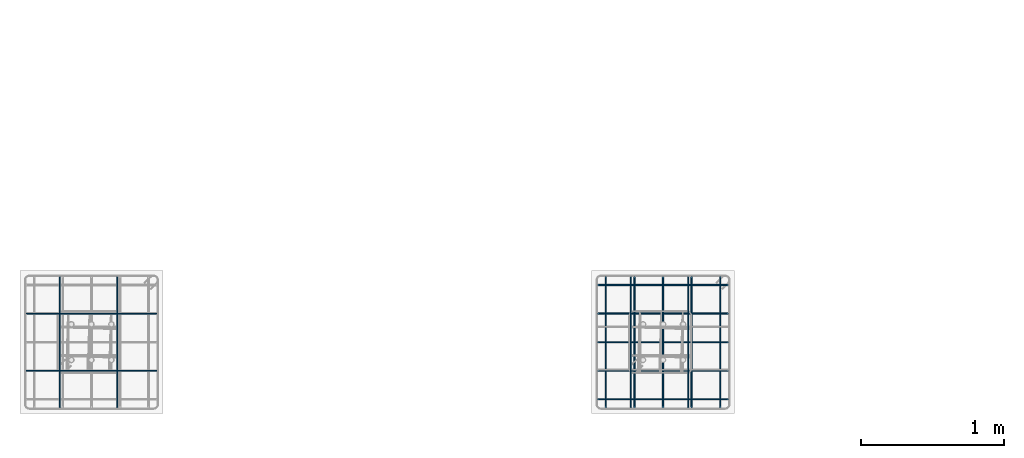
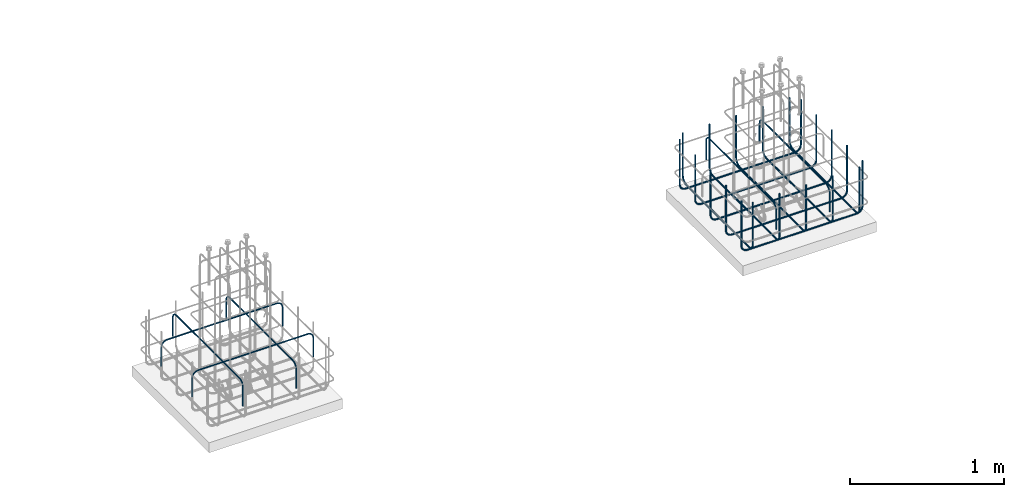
# One storey, part 3 of 12: 5 reinforcing bars.
"""IFC4X3_ADD2 building model written with IfcOpenShell, lengths in millimetres."""

from ifc_helpers import new_model, entity, si_unit, converted_unit, derived_unit, direction, frame, origin, place, context, subcontext, project, spatial, material, type_object, element, save


model = new_model("IFC4X3_ADD2")

# Units and contexts
model_context = context("Model", 3, precision=0.01, world=origin(), true_north=direction((6.123233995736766e-17, 1.0)))
plan_context = context("Plan", 3, precision=0.01, world=origin(), true_north=direction((6.123233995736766e-17, 1.0)))
body_context = subcontext(model_context, "Body", "Model", "MODEL_VIEW")
ifc_project = project(units=[si_unit("LENGTHUNIT", "METRE", prefix="MILLI"), converted_unit("PLANEANGLEUNIT", "DEGREE", entity("IfcPlaneAngleMeasure", 0.017453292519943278), si_unit("PLANEANGLEUNIT", "RADIAN"), dimensions=[0, 0, 0, 0, 0, 0, 0]), si_unit("AREAUNIT", "SQUARE_METRE"), si_unit("VOLUMEUNIT", "CUBIC_METRE"), derived_unit("THERMALTRANSMITTANCEUNIT", [(si_unit("MASSUNIT", "GRAM", prefix="KILO"), 1), (si_unit("THERMODYNAMICTEMPERATUREUNIT", "KELVIN"), -1), (si_unit("TIMEUNIT", "SECOND"), -3)]), derived_unit("USERDEFINED", [(si_unit("MASSUNIT", "GRAM", prefix="KILO"), 1), (si_unit("THERMODYNAMICTEMPERATUREUNIT", "KELVIN"), -1), (si_unit("TIMEUNIT", "SECOND"), -2)]), derived_unit("THERMALRESISTANCEUNIT", [(si_unit("MASSUNIT", "GRAM", prefix="KILO"), -1), (si_unit("TIMEUNIT", "SECOND"), 3), (si_unit("THERMODYNAMICTEMPERATUREUNIT", "KELVIN"), 1)]), si_unit("MASSUNIT", "GRAM", prefix="KILO"), derived_unit("MOMENTOFINERTIAUNIT", [(si_unit("LENGTHUNIT", "METRE"), 4)]), derived_unit("LINEARFORCEUNIT", [(si_unit("MASSUNIT", "GRAM", prefix="KILO"), 1), (si_unit("TIMEUNIT", "SECOND"), -2)]), derived_unit("WARPINGCONSTANTUNIT", [(si_unit("LENGTHUNIT", "METRE"), 6)]), si_unit("PRESSUREUNIT", "PASCAL"), derived_unit("MASSDENSITYUNIT", [(si_unit("MASSUNIT", "GRAM", prefix="KILO"), 1), (si_unit("LENGTHUNIT", "METRE"), -3)]), derived_unit("MODULUSOFELASTICITYUNIT", [(si_unit("MASSUNIT", "GRAM", prefix="KILO"), 1), (si_unit("TIMEUNIT", "SECOND"), -2), (si_unit("LENGTHUNIT", "METRE"), -1)]), derived_unit("THERMALEXPANSIONCOEFFICIENTUNIT", [(si_unit("THERMODYNAMICTEMPERATUREUNIT", "KELVIN"), -1)]), derived_unit("VAPORPERMEABILITYUNIT", [(si_unit("LENGTHUNIT", "METRE"), -1), (si_unit("TIMEUNIT", "SECOND"), 1)]), derived_unit("USERDEFINED", [(si_unit("MASSUNIT", "GRAM", prefix="KILO"), 1), (si_unit("TIMEUNIT", "SECOND"), -3), (si_unit("LENGTHUNIT", "METRE"), 3), (si_unit("ELECTRICCURRENTUNIT", "AMPERE"), -2)]), derived_unit("SPECIFICHEATCAPACITYUNIT", [(si_unit("THERMODYNAMICTEMPERATUREUNIT", "KELVIN"), -1), (si_unit("TIMEUNIT", "SECOND"), -2), (si_unit("LENGTHUNIT", "METRE"), 2)]), derived_unit("THERMALCONDUCTANCEUNIT", [(si_unit("MASSUNIT", "GRAM", prefix="KILO"), 1), (si_unit("THERMODYNAMICTEMPERATUREUNIT", "KELVIN"), -1), (si_unit("TIMEUNIT", "SECOND"), -3), (si_unit("LENGTHUNIT", "METRE"), 1)])], contexts=[model_context, plan_context])

# Site, building, storey
site_placement = place(None, origin())
site = spatial("IfcSite", under=ifc_project, at=site_placement, Name="Default", CompositionType="ELEMENT")
building_placement = place(site_placement, origin())
building = spatial("IfcBuilding", under=site, at=building_placement, Name="Complex structure", CompositionType="ELEMENT")
storey_placement = place(building_placement, frame((0.0, 0.0, -1200.0)))
storey = spatial("IfcBuildingStorey", under=building, at=storey_placement, Name="Level -03", CompositionType="ELEMENT", Elevation=-1200.0)

# Reinforcing bars
ifc_material = material(Name="Steel Rebar - B500A, B or C", Category="Unassigned")
reinforcing_bar_type_1 = type_object("IfcReinforcingBarType", Name="Rebar Bar:12mm", PredefinedType="NOTDEFINED")
reinforcing_bar_1_placement = place(storey_placement, origin())
ifc_direction_1 = entity("IfcDirection", [-1.0, 0.0, 0.0])
ifc_direction_2 = entity("IfcDirection", [-1.0, 0.0, 0.0])
ifc_direction_3 = entity("IfcDirection", [-1.0, 0.0, 0.0])
ifc_direction_4 = entity("IfcDirection", [-1.0, 0.0, 0.0])
ifc_direction_5 = entity("IfcDirection", [-1.0, 0.0, 0.0])
element("IfcReinforcingBar", 1, at=reinforcing_bar_1_placement, inside=storey, type_object=reinforcing_bar_type_1, material=ifc_material, Name="Rebar Bar:12mm : Shape 21", ObjectType="Rebar Bar:12mm", context=body_context, shape_type="AdvancedSweptSolid", body=[
    entity("IfcSweptDiskSolid", entity("IfcCompositeCurve", [entity("IfcCompositeCurveSegment", "CONTINUOUS", True, entity("IfcPolyline", [entity("IfcCartesianPoint", [-8745.221550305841, -828.8667039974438, 440.0]), entity("IfcCartesianPoint", [-8745.221550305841, -828.8667039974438, 104.0])])), entity("IfcCompositeCurveSegment", "CONTINUOUS", True, entity("IfcTrimmedCurve", entity("IfcCircle", entity("IfcAxis2Placement3D", entity("IfcCartesianPoint", [-8745.221550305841, -874.8667039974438, 104.0]), ifc_direction_1, entity("IfcDirection", [0.0, 0.0, -1.0])), 46.0), [entity("IfcParameterValue", 269.9999999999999)], [entity("IfcParameterValue", 360.00000000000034)], True, "PARAMETER")), entity("IfcCompositeCurveSegment", "CONTINUOUS", True, entity("IfcPolyline", [entity("IfcCartesianPoint", [-8745.221550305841, -874.8667039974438, 58.0]), entity("IfcCartesianPoint", [-8745.221550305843, -1690.866703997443, 58.0])])), entity("IfcCompositeCurveSegment", "CONTINUOUS", True, entity("IfcTrimmedCurve", entity("IfcCircle", entity("IfcAxis2Placement3D", entity("IfcCartesianPoint", [-8745.221550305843, -1690.866703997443, 104.0]), ifc_direction_1, entity("IfcDirection", [0.0, -1.0, 0.0])), 46.0), [entity("IfcParameterValue", 269.9999999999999)], [entity("IfcParameterValue", 360.00000000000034)], True, "PARAMETER")), entity("IfcCompositeCurveSegment", "CONTINUOUS", True, entity("IfcPolyline", [entity("IfcCartesianPoint", [-8745.221550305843, -1736.866703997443, 104.0]), entity("IfcCartesianPoint", [-8745.221550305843, -1736.866703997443, 440.0])]))], False), 6.0, None, 0.0, 183.00000000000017),
    entity("IfcSweptDiskSolid", entity("IfcCompositeCurve", [entity("IfcCompositeCurveSegment", "CONTINUOUS", True, entity("IfcPolyline", [entity("IfcCartesianPoint", [-8945.221550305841, -828.8667039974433, 440.0]), entity("IfcCartesianPoint", [-8945.221550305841, -828.8667039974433, 104.0])])), entity("IfcCompositeCurveSegment", "CONTINUOUS", True, entity("IfcTrimmedCurve", entity("IfcCircle", entity("IfcAxis2Placement3D", entity("IfcCartesianPoint", [-8945.221550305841, -874.8667039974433, 104.0]), ifc_direction_2, entity("IfcDirection", [0.0, 0.0, -1.0])), 46.0), [entity("IfcParameterValue", 269.9999999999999)], [entity("IfcParameterValue", 360.00000000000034)], True, "PARAMETER")), entity("IfcCompositeCurveSegment", "CONTINUOUS", True, entity("IfcPolyline", [entity("IfcCartesianPoint", [-8945.221550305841, -874.8667039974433, 58.0]), entity("IfcCartesianPoint", [-8945.221550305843, -1690.8667039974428, 58.0])])), entity("IfcCompositeCurveSegment", "CONTINUOUS", True, entity("IfcTrimmedCurve", entity("IfcCircle", entity("IfcAxis2Placement3D", entity("IfcCartesianPoint", [-8945.221550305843, -1690.8667039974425, 104.0]), ifc_direction_2, entity("IfcDirection", [0.0, -1.0, 0.0])), 46.0), [entity("IfcParameterValue", 269.9999999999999)], [entity("IfcParameterValue", 360.00000000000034)], True, "PARAMETER")), entity("IfcCompositeCurveSegment", "CONTINUOUS", True, entity("IfcPolyline", [entity("IfcCartesianPoint", [-8945.221550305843, -1736.8667039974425, 104.0]), entity("IfcCartesianPoint", [-8945.221550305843, -1736.8667039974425, 440.0])]))], False), 6.0, None, 0.0, 183.00000000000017),
    entity("IfcSweptDiskSolid", entity("IfcCompositeCurve", [entity("IfcCompositeCurveSegment", "CONTINUOUS", True, entity("IfcPolyline", [entity("IfcCartesianPoint", [-9145.221550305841, -828.8667039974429, 440.0]), entity("IfcCartesianPoint", [-9145.221550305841, -828.8667039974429, 104.0])])), entity("IfcCompositeCurveSegment", "CONTINUOUS", True, entity("IfcTrimmedCurve", entity("IfcCircle", entity("IfcAxis2Placement3D", entity("IfcCartesianPoint", [-9145.221550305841, -874.8667039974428, 104.0]), ifc_direction_3, entity("IfcDirection", [0.0, 0.0, -1.0])), 46.0), [entity("IfcParameterValue", 269.9999999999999)], [entity("IfcParameterValue", 360.00000000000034)], True, "PARAMETER")), entity("IfcCompositeCurveSegment", "CONTINUOUS", True, entity("IfcPolyline", [entity("IfcCartesianPoint", [-9145.221550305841, -874.8667039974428, 58.0]), entity("IfcCartesianPoint", [-9145.221550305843, -1690.866703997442, 58.0])])), entity("IfcCompositeCurveSegment", "CONTINUOUS", True, entity("IfcTrimmedCurve", entity("IfcCircle", entity("IfcAxis2Placement3D", entity("IfcCartesianPoint", [-9145.221550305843, -1690.866703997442, 104.0]), ifc_direction_3, entity("IfcDirection", [0.0, -1.0, 0.0])), 46.0), [entity("IfcParameterValue", 269.9999999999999)], [entity("IfcParameterValue", 360.00000000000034)], True, "PARAMETER")), entity("IfcCompositeCurveSegment", "CONTINUOUS", True, entity("IfcPolyline", [entity("IfcCartesianPoint", [-9145.221550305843, -1736.8667039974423, 104.0]), entity("IfcCartesianPoint", [-9145.221550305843, -1736.8667039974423, 440.0])]))], False), 6.0, None, 0.0, 183.00000000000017),
    entity("IfcSweptDiskSolid", entity("IfcCompositeCurve", [entity("IfcCompositeCurveSegment", "CONTINUOUS", True, entity("IfcPolyline", [entity("IfcCartesianPoint", [-9345.221550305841, -828.8667039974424, 440.0]), entity("IfcCartesianPoint", [-9345.221550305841, -828.8667039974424, 104.0])])), entity("IfcCompositeCurveSegment", "CONTINUOUS", True, entity("IfcTrimmedCurve", entity("IfcCircle", entity("IfcAxis2Placement3D", entity("IfcCartesianPoint", [-9345.221550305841, -874.8667039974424, 104.0]), ifc_direction_4, entity("IfcDirection", [0.0, 0.0, -1.0])), 46.0), [entity("IfcParameterValue", 269.9999999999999)], [entity("IfcParameterValue", 360.00000000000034)], True, "PARAMETER")), entity("IfcCompositeCurveSegment", "CONTINUOUS", True, entity("IfcPolyline", [entity("IfcCartesianPoint", [-9345.221550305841, -874.8667039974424, 58.0]), entity("IfcCartesianPoint", [-9345.221550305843, -1690.8667039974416, 58.0])])), entity("IfcCompositeCurveSegment", "CONTINUOUS", True, entity("IfcTrimmedCurve", entity("IfcCircle", entity("IfcAxis2Placement3D", entity("IfcCartesianPoint", [-9345.221550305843, -1690.8667039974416, 104.0]), ifc_direction_4, entity("IfcDirection", [0.0, -1.0, 0.0])), 46.0), [entity("IfcParameterValue", 269.9999999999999)], [entity("IfcParameterValue", 360.00000000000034)], True, "PARAMETER")), entity("IfcCompositeCurveSegment", "CONTINUOUS", True, entity("IfcPolyline", [entity("IfcCartesianPoint", [-9345.221550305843, -1736.8667039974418, 104.0]), entity("IfcCartesianPoint", [-9345.221550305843, -1736.8667039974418, 440.0])]))], False), 6.0, None, 0.0, 183.00000000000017),
    entity("IfcSweptDiskSolid", entity("IfcCompositeCurve", [entity("IfcCompositeCurveSegment", "CONTINUOUS", True, entity("IfcPolyline", [entity("IfcCartesianPoint", [-9545.221550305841, -828.8667039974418, 440.0]), entity("IfcCartesianPoint", [-9545.221550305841, -828.8667039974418, 104.0])])), entity("IfcCompositeCurveSegment", "CONTINUOUS", True, entity("IfcTrimmedCurve", entity("IfcCircle", entity("IfcAxis2Placement3D", entity("IfcCartesianPoint", [-9545.221550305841, -874.8667039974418, 104.0]), ifc_direction_5, entity("IfcDirection", [0.0, 0.0, -1.0])), 46.0), [entity("IfcParameterValue", 269.9999999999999)], [entity("IfcParameterValue", 360.00000000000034)], True, "PARAMETER")), entity("IfcCompositeCurveSegment", "CONTINUOUS", True, entity("IfcPolyline", [entity("IfcCartesianPoint", [-9545.221550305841, -874.8667039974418, 58.0]), entity("IfcCartesianPoint", [-9545.221550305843, -1690.8667039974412, 58.0])])), entity("IfcCompositeCurveSegment", "CONTINUOUS", True, entity("IfcTrimmedCurve", entity("IfcCircle", entity("IfcAxis2Placement3D", entity("IfcCartesianPoint", [-9545.221550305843, -1690.8667039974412, 104.0]), ifc_direction_5, entity("IfcDirection", [0.0, -1.0, 0.0])), 46.0), [entity("IfcParameterValue", 269.9999999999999)], [entity("IfcParameterValue", 360.00000000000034)], True, "PARAMETER")), entity("IfcCompositeCurveSegment", "CONTINUOUS", True, entity("IfcPolyline", [entity("IfcCartesianPoint", [-9545.221550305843, -1736.8667039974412, 104.0]), entity("IfcCartesianPoint", [-9545.221550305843, -1736.8667039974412, 440.0])]))], False), 6.0, None, 0.0, 183.00000000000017),
])
reinforcing_bar_2_placement = place(storey_placement, origin())
ifc_direction_6 = entity("IfcDirection", [0.0, -1.0, 0.0])
ifc_direction_7 = entity("IfcDirection", [0.0, -1.0, 0.0])
ifc_direction_8 = entity("IfcDirection", [0.0, -1.0, 0.0])
ifc_direction_9 = entity("IfcDirection", [0.0, -1.0, 0.0])
ifc_direction_10 = entity("IfcDirection", [0.0, -1.0, 0.0])
element("IfcReinforcingBar", 2, at=reinforcing_bar_2_placement, inside=storey, type_object=reinforcing_bar_type_1, material=ifc_material, Name="Rebar Bar:12mm : Shape 21", ObjectType="Rebar Bar:12mm", context=body_context, shape_type="AdvancedSweptSolid", body=[
    entity("IfcSweptDiskSolid", entity("IfcCompositeCurve", [entity("IfcCompositeCurveSegment", "CONTINUOUS", True, entity("IfcPolyline", [entity("IfcCartesianPoint", [-9598.871550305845, -882.8667039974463, 440.0]), entity("IfcCartesianPoint", [-9598.871550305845, -882.8667039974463, 82.0])])), entity("IfcCompositeCurveSegment", "CONTINUOUS", True, entity("IfcTrimmedCurve", entity("IfcCircle", entity("IfcAxis2Placement3D", entity("IfcCartesianPoint", [-9552.871550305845, -882.8667039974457, 82.0]), ifc_direction_6, entity("IfcDirection", [0.0, 0.0, -1.0])), 46.0), [entity("IfcParameterValue", 269.9999999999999)], [entity("IfcParameterValue", 360.00000000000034)], True, "PARAMETER")), entity("IfcCompositeCurveSegment", "CONTINUOUS", True, entity("IfcPolyline", [entity("IfcCartesianPoint", [-9552.871550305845, -882.8667039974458, 36.0]), entity("IfcCartesianPoint", [-8737.571550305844, -882.8667039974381, 36.0])])), entity("IfcCompositeCurveSegment", "CONTINUOUS", True, entity("IfcTrimmedCurve", entity("IfcCircle", entity("IfcAxis2Placement3D", entity("IfcCartesianPoint", [-8737.571550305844, -882.8667039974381, 82.0]), ifc_direction_6, entity("IfcDirection", [1.0, 0.0, 0.0])), 46.0), [entity("IfcParameterValue", 269.9999999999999)], [entity("IfcParameterValue", 360.00000000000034)], True, "PARAMETER")), entity("IfcCompositeCurveSegment", "CONTINUOUS", True, entity("IfcPolyline", [entity("IfcCartesianPoint", [-8691.571550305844, -882.8667039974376, 82.0]), entity("IfcCartesianPoint", [-8691.571550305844, -882.8667039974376, 440.0])]))], False), 6.0, None, 0.0, 183.00000000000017),
    entity("IfcSweptDiskSolid", entity("IfcCompositeCurve", [entity("IfcCompositeCurveSegment", "CONTINUOUS", True, entity("IfcPolyline", [entity("IfcCartesianPoint", [-9598.871550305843, -1082.8667039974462, 440.0]), entity("IfcCartesianPoint", [-9598.871550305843, -1082.8667039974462, 82.0])])), entity("IfcCompositeCurveSegment", "CONTINUOUS", True, entity("IfcTrimmedCurve", entity("IfcCircle", entity("IfcAxis2Placement3D", entity("IfcCartesianPoint", [-9552.871550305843, -1082.8667039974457, 82.0]), ifc_direction_7, entity("IfcDirection", [0.0, 0.0, -1.0])), 46.0), [entity("IfcParameterValue", 269.9999999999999)], [entity("IfcParameterValue", 360.00000000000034)], True, "PARAMETER")), entity("IfcCompositeCurveSegment", "CONTINUOUS", True, entity("IfcPolyline", [entity("IfcCartesianPoint", [-9552.871550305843, -1082.866703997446, 36.0]), entity("IfcCartesianPoint", [-8737.571550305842, -1082.8667039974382, 36.0])])), entity("IfcCompositeCurveSegment", "CONTINUOUS", True, entity("IfcTrimmedCurve", entity("IfcCircle", entity("IfcAxis2Placement3D", entity("IfcCartesianPoint", [-8737.571550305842, -1082.8667039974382, 82.0]), ifc_direction_7, entity("IfcDirection", [1.0, 0.0, 0.0])), 46.0), [entity("IfcParameterValue", 269.9999999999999)], [entity("IfcParameterValue", 360.00000000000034)], True, "PARAMETER")), entity("IfcCompositeCurveSegment", "CONTINUOUS", True, entity("IfcPolyline", [entity("IfcCartesianPoint", [-8691.571550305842, -1082.8667039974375, 82.0]), entity("IfcCartesianPoint", [-8691.571550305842, -1082.8667039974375, 440.0])]))], False), 6.0, None, 0.0, 183.00000000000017),
    entity("IfcSweptDiskSolid", entity("IfcCompositeCurve", [entity("IfcCompositeCurveSegment", "CONTINUOUS", True, entity("IfcPolyline", [entity("IfcCartesianPoint", [-9598.871550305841, -1282.8667039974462, 440.0]), entity("IfcCartesianPoint", [-9598.871550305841, -1282.8667039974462, 82.0])])), entity("IfcCompositeCurveSegment", "CONTINUOUS", True, entity("IfcTrimmedCurve", entity("IfcCircle", entity("IfcAxis2Placement3D", entity("IfcCartesianPoint", [-9552.871550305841, -1282.8667039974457, 82.0]), ifc_direction_8, entity("IfcDirection", [0.0, 0.0, -1.0])), 46.0), [entity("IfcParameterValue", 269.9999999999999)], [entity("IfcParameterValue", 360.00000000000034)], True, "PARAMETER")), entity("IfcCompositeCurveSegment", "CONTINUOUS", True, entity("IfcPolyline", [entity("IfcCartesianPoint", [-9552.871550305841, -1282.8667039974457, 36.0]), entity("IfcCartesianPoint", [-8737.57155030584, -1282.866703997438, 36.0])])), entity("IfcCompositeCurveSegment", "CONTINUOUS", True, entity("IfcTrimmedCurve", entity("IfcCircle", entity("IfcAxis2Placement3D", entity("IfcCartesianPoint", [-8737.57155030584, -1282.866703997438, 82.0]), ifc_direction_8, entity("IfcDirection", [1.0, 0.0, 0.0])), 46.0), [entity("IfcParameterValue", 269.9999999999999)], [entity("IfcParameterValue", 360.00000000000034)], True, "PARAMETER")), entity("IfcCompositeCurveSegment", "CONTINUOUS", True, entity("IfcPolyline", [entity("IfcCartesianPoint", [-8691.57155030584, -1282.8667039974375, 82.0]), entity("IfcCartesianPoint", [-8691.57155030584, -1282.8667039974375, 440.0])]))], False), 6.0, None, 0.0, 183.00000000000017),
    entity("IfcSweptDiskSolid", entity("IfcCompositeCurve", [entity("IfcCompositeCurveSegment", "CONTINUOUS", True, entity("IfcPolyline", [entity("IfcCartesianPoint", [-9598.87155030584, -1482.8667039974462, 440.0]), entity("IfcCartesianPoint", [-9598.87155030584, -1482.8667039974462, 82.0])])), entity("IfcCompositeCurveSegment", "CONTINUOUS", True, entity("IfcTrimmedCurve", entity("IfcCircle", entity("IfcAxis2Placement3D", entity("IfcCartesianPoint", [-9552.87155030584, -1482.8667039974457, 82.0]), ifc_direction_9, entity("IfcDirection", [0.0, 0.0, -1.0])), 46.0), [entity("IfcParameterValue", 269.9999999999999)], [entity("IfcParameterValue", 360.00000000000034)], True, "PARAMETER")), entity("IfcCompositeCurveSegment", "CONTINUOUS", True, entity("IfcPolyline", [entity("IfcCartesianPoint", [-9552.87155030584, -1482.8667039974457, 36.0]), entity("IfcCartesianPoint", [-8737.571550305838, -1482.866703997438, 36.0])])), entity("IfcCompositeCurveSegment", "CONTINUOUS", True, entity("IfcTrimmedCurve", entity("IfcCircle", entity("IfcAxis2Placement3D", entity("IfcCartesianPoint", [-8737.571550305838, -1482.866703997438, 82.0]), ifc_direction_9, entity("IfcDirection", [1.0, 0.0, 0.0])), 46.0), [entity("IfcParameterValue", 269.9999999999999)], [entity("IfcParameterValue", 360.00000000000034)], True, "PARAMETER")), entity("IfcCompositeCurveSegment", "CONTINUOUS", True, entity("IfcPolyline", [entity("IfcCartesianPoint", [-8691.571550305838, -1482.8667039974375, 82.0]), entity("IfcCartesianPoint", [-8691.571550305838, -1482.8667039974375, 440.0])]))], False), 6.0, None, 0.0, 183.00000000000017),
    entity("IfcSweptDiskSolid", entity("IfcCompositeCurve", [entity("IfcCompositeCurveSegment", "CONTINUOUS", True, entity("IfcPolyline", [entity("IfcCartesianPoint", [-9598.871550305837, -1682.8667039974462, 440.0]), entity("IfcCartesianPoint", [-9598.871550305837, -1682.8667039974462, 82.0])])), entity("IfcCompositeCurveSegment", "CONTINUOUS", True, entity("IfcTrimmedCurve", entity("IfcCircle", entity("IfcAxis2Placement3D", entity("IfcCartesianPoint", [-9552.871550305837, -1682.8667039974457, 82.0]), ifc_direction_10, entity("IfcDirection", [0.0, 0.0, -1.0])), 46.0), [entity("IfcParameterValue", 269.9999999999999)], [entity("IfcParameterValue", 360.00000000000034)], True, "PARAMETER")), entity("IfcCompositeCurveSegment", "CONTINUOUS", True, entity("IfcPolyline", [entity("IfcCartesianPoint", [-9552.871550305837, -1682.8667039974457, 36.0]), entity("IfcCartesianPoint", [-8737.571550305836, -1682.866703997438, 36.0])])), entity("IfcCompositeCurveSegment", "CONTINUOUS", True, entity("IfcTrimmedCurve", entity("IfcCircle", entity("IfcAxis2Placement3D", entity("IfcCartesianPoint", [-8737.571550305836, -1682.866703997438, 82.0]), ifc_direction_10, entity("IfcDirection", [1.0, 0.0, 0.0])), 46.0), [entity("IfcParameterValue", 269.9999999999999)], [entity("IfcParameterValue", 360.00000000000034)], True, "PARAMETER")), entity("IfcCompositeCurveSegment", "CONTINUOUS", True, entity("IfcPolyline", [entity("IfcCartesianPoint", [-8691.571550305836, -1682.8667039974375, 82.0]), entity("IfcCartesianPoint", [-8691.571550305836, -1682.8667039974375, 440.0])]))], False), 6.0, None, 0.0, 183.00000000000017),
])
reinforcing_bar_type_2 = type_object("IfcReinforcingBarType", Name="Rebar Bar:10mm", PredefinedType="NOTDEFINED")
reinforcing_bar_3_placement = place(storey_placement, origin())
ifc_direction_11 = entity("IfcDirection", [1.0, 0.0, 0.0])
ifc_direction_12 = entity("IfcDirection", [1.0, 0.0, 0.0])
element("IfcReinforcingBar", 3, at=reinforcing_bar_3_placement, inside=storey, type_object=reinforcing_bar_type_2, material=ifc_material, Name="Rebar Bar:10mm : Shape 21", ObjectType="Rebar Bar:10mm", context=body_context, shape_type="AdvancedSweptSolid", body=[
    entity("IfcSweptDiskSolid", entity("IfcCompositeCurve", [entity("IfcCompositeCurveSegment", "CONTINUOUS", True, entity("IfcPolyline", [entity("IfcCartesianPoint", [-12965.87155030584, -827.8667039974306, 167.0]), entity("IfcCartesianPoint", [-12965.87155030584, -827.8667039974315, 315.0])])), entity("IfcCompositeCurveSegment", "CONTINUOUS", True, entity("IfcTrimmedCurve", entity("IfcCircle", entity("IfcAxis2Placement3D", entity("IfcCartesianPoint", [-12965.87155030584, -872.8667039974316, 315.0]), ifc_direction_11, entity("IfcDirection", [0.0, 0.0, 1.0])), 45.0), [entity("IfcParameterValue", 269.9999999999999)], [entity("IfcParameterValue", 360.00000000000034)], True, "PARAMETER")), entity("IfcCompositeCurveSegment", "CONTINUOUS", True, entity("IfcPolyline", [entity("IfcCartesianPoint", [-12965.87155030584, -872.8667039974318, 360.0]), entity("IfcCartesianPoint", [-12965.871550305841, -1692.8667039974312, 360.0])])), entity("IfcCompositeCurveSegment", "CONTINUOUS", True, entity("IfcTrimmedCurve", entity("IfcCircle", entity("IfcAxis2Placement3D", entity("IfcCartesianPoint", [-12965.871550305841, -1692.866703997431, 315.0]), ifc_direction_11, entity("IfcDirection", [0.0, -1.0, 0.0])), 45.0), [entity("IfcParameterValue", 269.9999999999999)], [entity("IfcParameterValue", 360.00000000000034)], True, "PARAMETER")), entity("IfcCompositeCurveSegment", "CONTINUOUS", True, entity("IfcPolyline", [entity("IfcCartesianPoint", [-12965.871550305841, -1737.866703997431, 315.0]), entity("IfcCartesianPoint", [-12965.871550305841, -1737.8667039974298, 167.0])]))], False), 5.0, None, 0.0, 183.00000000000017),
    entity("IfcSweptDiskSolid", entity("IfcCompositeCurve", [entity("IfcCompositeCurveSegment", "CONTINUOUS", True, entity("IfcPolyline", [entity("IfcCartesianPoint", [-13365.87155030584, -827.8667039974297, 167.0]), entity("IfcCartesianPoint", [-13365.87155030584, -827.8667039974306, 315.0])])), entity("IfcCompositeCurveSegment", "CONTINUOUS", True, entity("IfcTrimmedCurve", entity("IfcCircle", entity("IfcAxis2Placement3D", entity("IfcCartesianPoint", [-13365.87155030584, -872.8667039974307, 315.0]), ifc_direction_12, entity("IfcDirection", [0.0, 0.0, 1.0])), 45.0), [entity("IfcParameterValue", 269.9999999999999)], [entity("IfcParameterValue", 360.00000000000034)], True, "PARAMETER")), entity("IfcCompositeCurveSegment", "CONTINUOUS", True, entity("IfcPolyline", [entity("IfcCartesianPoint", [-13365.87155030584, -872.8667039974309, 360.0]), entity("IfcCartesianPoint", [-13365.871550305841, -1692.8667039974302, 360.0])])), entity("IfcCompositeCurveSegment", "CONTINUOUS", True, entity("IfcTrimmedCurve", entity("IfcCircle", entity("IfcAxis2Placement3D", entity("IfcCartesianPoint", [-13365.871550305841, -1692.86670399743, 315.0]), ifc_direction_12, entity("IfcDirection", [0.0, -1.0, 0.0])), 45.0), [entity("IfcParameterValue", 269.9999999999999)], [entity("IfcParameterValue", 360.00000000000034)], True, "PARAMETER")), entity("IfcCompositeCurveSegment", "CONTINUOUS", True, entity("IfcPolyline", [entity("IfcCartesianPoint", [-13365.871550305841, -1737.8667039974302, 315.0]), entity("IfcCartesianPoint", [-13365.871550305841, -1737.866703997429, 167.0])]))], False), 5.0, None, 0.0, 183.00000000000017),
])
reinforcing_bar_4_placement = place(storey_placement, origin())
element("IfcReinforcingBar", 4, at=reinforcing_bar_4_placement, inside=storey, type_object=reinforcing_bar_type_2, material=ifc_material, Name="Rebar Bar:10mm : Shape 21", ObjectType="Rebar Bar:10mm", context=body_context, shape_type="AdvancedSweptSolid", body=[
    entity("IfcSweptDiskSolid", entity("IfcCompositeCurve", [entity("IfcCompositeCurveSegment", "CONTINUOUS", True, entity("IfcPolyline", [entity("IfcCartesianPoint", [-12691.352329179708, -1483.108904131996, 167.0]), entity("IfcCartesianPoint", [-12691.352329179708, -1483.108904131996, 316.0])])), entity("IfcCompositeCurveSegment", "CONTINUOUS", True, entity("IfcTrimmedCurve", entity("IfcCircle", entity("IfcAxis2Placement3D", entity("IfcCartesianPoint", [-12736.352322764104, -1483.084874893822, 316.0]), entity("IfcDirection", [-0.0005339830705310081, -0.99999985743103, 0.0]), entity("IfcDirection", [0.0, 0.0, 1.0])), 45.0), [entity("IfcParameterValue", 269.9999999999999)], [entity("IfcParameterValue", 360.00000000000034)], True, "PARAMETER")), entity("IfcCompositeCurveSegment", "CONTINUOUS", True, entity("IfcPolyline", [entity("IfcCartesianPoint", [-12736.352322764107, -1483.0848748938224, 361.0]), entity("IfcCartesianPoint", [-13554.351947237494, -1482.6480768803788, 361.0])])), entity("IfcCompositeCurveSegment", "CONTINUOUS", True, entity("IfcTrimmedCurve", entity("IfcCircle", entity("IfcAxis2Placement3D", entity("IfcCartesianPoint", [-13554.351947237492, -1482.6480768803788, 316.0]), entity("IfcDirection", [-0.0005339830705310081, -0.99999985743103, 0.0]), entity("IfcDirection", [-0.99999985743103, 0.0005339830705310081, 0.0])), 45.0), [entity("IfcParameterValue", 269.9999999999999)], [entity("IfcParameterValue", 360.00000000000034)], True, "PARAMETER")), entity("IfcCompositeCurveSegment", "CONTINUOUS", True, entity("IfcPolyline", [entity("IfcCartesianPoint", [-13599.35194082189, -1482.6240476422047, 316.0]), entity("IfcCartesianPoint", [-13599.351940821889, -1482.6240476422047, 167.0])]))], False), 5.0, None, 0.0, 183.00000000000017),
    entity("IfcSweptDiskSolid", entity("IfcCompositeCurve", [entity("IfcCompositeCurveSegment", "CONTINUOUS", True, entity("IfcPolyline", [entity("IfcCartesianPoint", [-12691.138735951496, -1083.108961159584, 167.0]), entity("IfcCartesianPoint", [-12691.138735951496, -1083.108961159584, 316.0])])), entity("IfcCompositeCurveSegment", "CONTINUOUS", True, entity("IfcTrimmedCurve", entity("IfcCircle", entity("IfcAxis2Placement3D", entity("IfcCartesianPoint", [-12736.13872953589, -1083.0849319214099, 316.0]), entity("IfcDirection", [-0.0005339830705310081, -0.99999985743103, 0.0]), entity("IfcDirection", [0.0, 0.0, 1.0])), 45.0), [entity("IfcParameterValue", 269.9999999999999)], [entity("IfcParameterValue", 360.00000000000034)], True, "PARAMETER")), entity("IfcCompositeCurveSegment", "CONTINUOUS", True, entity("IfcPolyline", [entity("IfcCartesianPoint", [-12736.138729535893, -1083.08493192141, 361.0]), entity("IfcCartesianPoint", [-13554.138354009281, -1082.6481339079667, 361.0])])), entity("IfcCompositeCurveSegment", "CONTINUOUS", True, entity("IfcTrimmedCurve", entity("IfcCircle", entity("IfcAxis2Placement3D", entity("IfcCartesianPoint", [-13554.13835400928, -1082.6481339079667, 316.0]), entity("IfcDirection", [-0.0005339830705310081, -0.99999985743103, 0.0]), entity("IfcDirection", [-0.99999985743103, 0.0005339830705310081, 0.0])), 45.0), [entity("IfcParameterValue", 269.9999999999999)], [entity("IfcParameterValue", 360.00000000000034)], True, "PARAMETER")), entity("IfcCompositeCurveSegment", "CONTINUOUS", True, entity("IfcPolyline", [entity("IfcCartesianPoint", [-13599.138347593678, -1082.6241046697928, 316.0]), entity("IfcCartesianPoint", [-13599.138347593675, -1082.6241046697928, 167.0])]))], False), 5.0, None, 0.0, 183.00000000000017),
])
reinforcing_bar_5_placement = place(storey_placement, origin())
ifc_direction_13 = entity("IfcDirection", [1.0, 0.0, 0.0])
ifc_direction_14 = entity("IfcDirection", [1.0, 0.0, 0.0])
element("IfcReinforcingBar", 5, at=reinforcing_bar_5_placement, inside=storey, type_object=reinforcing_bar_type_2, material=ifc_material, Name="Rebar Bar:10mm : Shape 21", ObjectType="Rebar Bar:10mm", context=body_context, shape_type="AdvancedSweptSolid", body=[
    entity("IfcSweptDiskSolid", entity("IfcCompositeCurve", [entity("IfcCompositeCurveSegment", "CONTINUOUS", True, entity("IfcPolyline", [entity("IfcCartesianPoint", [-8969.871550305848, -827.8667039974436, 167.0]), entity("IfcCartesianPoint", [-8969.871550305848, -827.8667039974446, 315.0])])), entity("IfcCompositeCurveSegment", "CONTINUOUS", True, entity("IfcTrimmedCurve", entity("IfcCircle", entity("IfcAxis2Placement3D", entity("IfcCartesianPoint", [-8969.871550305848, -872.8667039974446, 315.0]), ifc_direction_13, entity("IfcDirection", [0.0, 0.0, 1.0])), 45.0), [entity("IfcParameterValue", 269.9999999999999)], [entity("IfcParameterValue", 360.00000000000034)], True, "PARAMETER")), entity("IfcCompositeCurveSegment", "CONTINUOUS", True, entity("IfcPolyline", [entity("IfcCartesianPoint", [-8969.871550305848, -872.8667039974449, 360.0]), entity("IfcCartesianPoint", [-8969.87155030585, -1692.8667039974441, 360.0])])), entity("IfcCompositeCurveSegment", "CONTINUOUS", True, entity("IfcTrimmedCurve", entity("IfcCircle", entity("IfcAxis2Placement3D", entity("IfcCartesianPoint", [-8969.87155030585, -1692.866703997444, 315.0]), ifc_direction_13, entity("IfcDirection", [0.0, -1.0, 0.0])), 45.0), [entity("IfcParameterValue", 269.9999999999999)], [entity("IfcParameterValue", 360.00000000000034)], True, "PARAMETER")), entity("IfcCompositeCurveSegment", "CONTINUOUS", True, entity("IfcPolyline", [entity("IfcCartesianPoint", [-8969.87155030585, -1737.866703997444, 315.0]), entity("IfcCartesianPoint", [-8969.87155030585, -1737.8667039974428, 167.0])]))], False), 5.0, None, 0.0, 183.00000000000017),
    entity("IfcSweptDiskSolid", entity("IfcCompositeCurve", [entity("IfcCompositeCurveSegment", "CONTINUOUS", True, entity("IfcPolyline", [entity("IfcCartesianPoint", [-9369.871550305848, -827.8667039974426, 167.0]), entity("IfcCartesianPoint", [-9369.871550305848, -827.8667039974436, 315.0])])), entity("IfcCompositeCurveSegment", "CONTINUOUS", True, entity("IfcTrimmedCurve", entity("IfcCircle", entity("IfcAxis2Placement3D", entity("IfcCartesianPoint", [-9369.871550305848, -872.8667039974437, 315.0]), ifc_direction_14, entity("IfcDirection", [0.0, 0.0, 1.0])), 45.0), [entity("IfcParameterValue", 269.9999999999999)], [entity("IfcParameterValue", 360.00000000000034)], True, "PARAMETER")), entity("IfcCompositeCurveSegment", "CONTINUOUS", True, entity("IfcPolyline", [entity("IfcCartesianPoint", [-9369.871550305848, -872.8667039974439, 360.0]), entity("IfcCartesianPoint", [-9369.87155030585, -1692.8667039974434, 360.0])])), entity("IfcCompositeCurveSegment", "CONTINUOUS", True, entity("IfcTrimmedCurve", entity("IfcCircle", entity("IfcAxis2Placement3D", entity("IfcCartesianPoint", [-9369.87155030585, -1692.866703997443, 315.0]), ifc_direction_14, entity("IfcDirection", [0.0, -1.0, 0.0])), 45.0), [entity("IfcParameterValue", 269.9999999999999)], [entity("IfcParameterValue", 360.00000000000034)], True, "PARAMETER")), entity("IfcCompositeCurveSegment", "CONTINUOUS", True, entity("IfcPolyline", [entity("IfcCartesianPoint", [-9369.87155030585, -1737.8667039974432, 315.0]), entity("IfcCartesianPoint", [-9369.87155030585, -1737.866703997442, 167.0])]))], False), 5.0, None, 0.0, 183.00000000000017),
])

save(model, "model.ifc")
